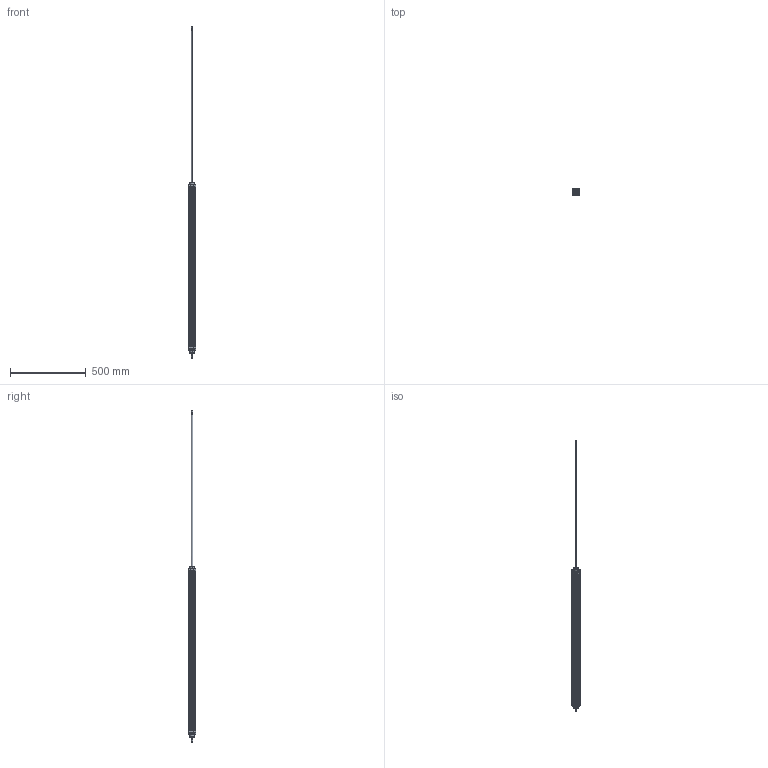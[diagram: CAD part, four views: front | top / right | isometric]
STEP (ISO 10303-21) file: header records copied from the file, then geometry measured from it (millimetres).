
FILE_DESCRIPTION((''),'2;1');
FILE_NAME('N11M40321000.stp','2010-01-07T00:58:03',('B. Petkovic 2010'),('AZ PNEUMATICA S.r.l.'),'Mechanical Desktop 2006','Mechanical Desktop 2006','Via Marco Biagi 6, I-20020 Misinto(MI) Italy, azpneu@tin.it');
FILE_SCHEMA(('CONFIG_CONTROL_DESIGN'));
Length unit declared in the file: millimetre
Products named in the file (2): N11M21251000; CILINDAR
Assembly tree (1 placements, depth 2):
  N11M21251000
    CILINDAR
Bounding box: 47 x 47 x 2190 mm (x, y, z)
Volume: 1999227.4 mm3; surface area: 335729.6 mm2
Topology: 1 solids, 1 shells, 505 faces, 1323 edges, 866 vertices
Faces by surface type: plane 277, cylinder 204, torus 8, cone 8, bspline 8
Entity records: 16190 total; most frequent: CARTESIAN_POINT 3182, DIRECTION 2815, ORIENTED_EDGE 2646, EDGE_CURVE 1323, AXIS2_PLACEMENT_3D 997, VERTEX_POINT 866, VECTOR 821, LINE 821
